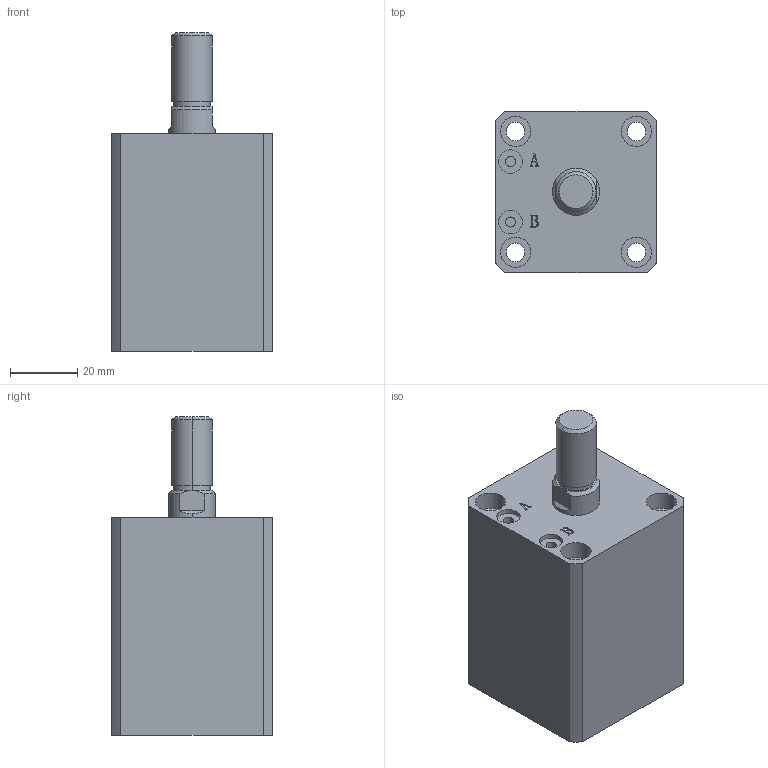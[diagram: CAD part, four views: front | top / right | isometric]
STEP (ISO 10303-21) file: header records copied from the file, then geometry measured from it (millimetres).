
FILE_DESCRIPTION (( 'STEP AP203' ), '1' );
FILE_NAME ('HTB-SDMA25-20W.STEP', '2019-10-07T10:51:42', ( '微软用户' ), ( '微软中国' ), 'SwSTEP 2.0', 'SolidWorks 2012', '' );
FILE_SCHEMA (( 'CONFIG_CONTROL_DESIGN' ));
Length unit declared in the file: millimetre
Products named in the file (3): HTB-SDMA25-20W; HTB-SDMA25-20W活塞杆; HTB-SDMA25-20掛极
Assembly tree (2 placements, depth 2):
  HTB-SDMA25-20W
    HTB-SDMA25-20掛极
    HTB-SDMA25-20W活塞杆
Bounding box: 48 x 48 x 95 mm (x, y, z)
Volume: 137209.5 mm3; surface area: 31319.9 mm2
Topology: 2 solids, 2 shells, 141 faces, 335 edges, 220 vertices
Faces by surface type: plane 67, cylinder 48, bspline 16, torus 6, cone 4
Entity records: 5178 total; most frequent: CARTESIAN_POINT 1609, ORIENTED_EDGE 670, DIRECTION 667, EDGE_CURVE 335, AXIS2_PLACEMENT_3D 242, VERTEX_POINT 220, VECTOR 183, LINE 183
